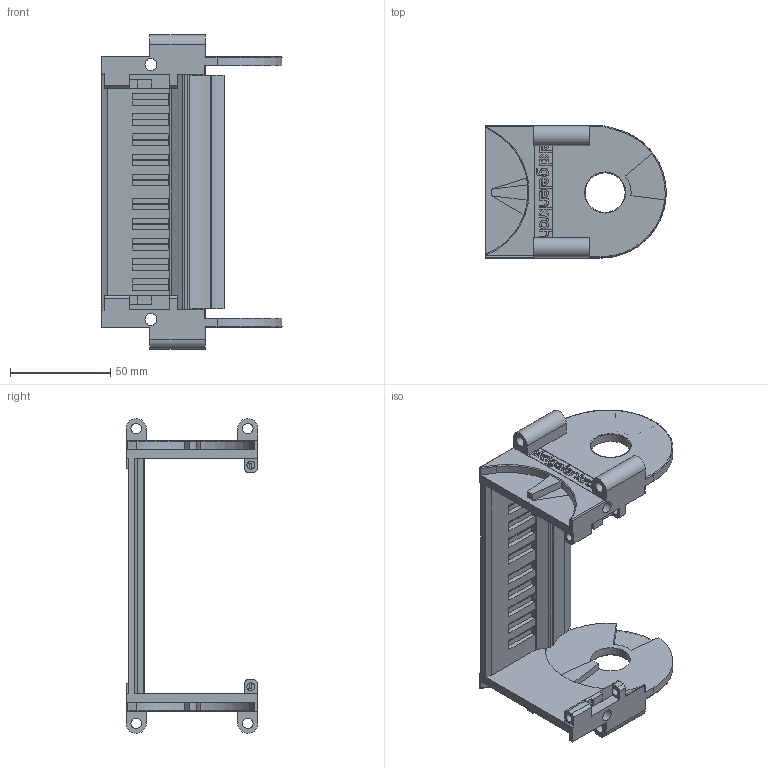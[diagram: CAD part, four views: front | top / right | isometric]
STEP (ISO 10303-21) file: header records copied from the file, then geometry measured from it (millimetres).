
FILE_DESCRIPTION((''),'2;1');
FILE_NAME('C:\Uebbing\PARAMETERKETTEN\KOLIBRI\Kol_65_135_5\Kol_65_135_5 SFA Bohrung.stp','2011-11-02T15:13:26',('Uebbing'),(''),'Autodesk Inventor 10','Autodesk Inventor 10','');
FILE_SCHEMA(('AUTOMOTIVE_DESIGN { 1 0 10303 214 1 1 1 1 }'));
Length unit declared in the file: millimetre
Products named in the file (1): Kol_65_135_5 SFA Bohrung
Bounding box: 89.94 x 65.7 x 157 mm (x, y, z)
Volume: 81077.7 mm3; surface area: 51950.9 mm2
Topology: 1 solids, 1 shells, 430 faces, 1206 edges, 778 vertices
Faces by surface type: plane 209, bspline 138, cylinder 77, torus 5, sphere 1
Full cylindrical faces by diameter (mm): 2.514 x1, 4 x2, 4.414 x1, 5.2 x4, 6 x1, 20 x1
Entity records: 14311 total; most frequent: CARTESIAN_POINT 3481, ORIENTED_EDGE 2366, DIRECTION 2006, EDGE_CURVE 1183, VECTOR 926, LINE 926, VERTEX_POINT 773, AXIS2_PLACEMENT_3D 540
